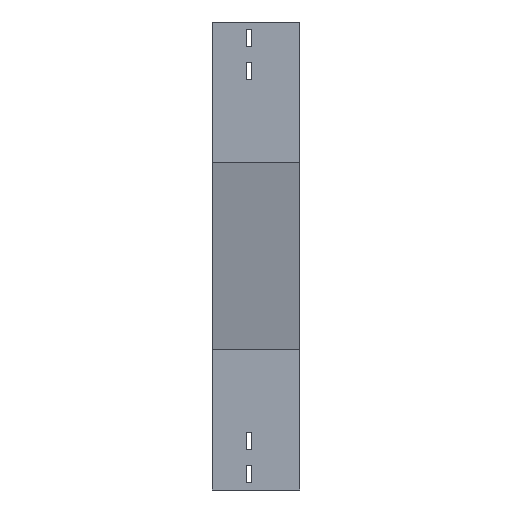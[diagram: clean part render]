
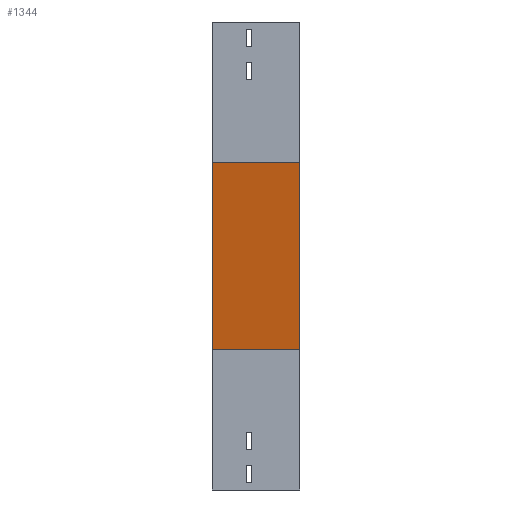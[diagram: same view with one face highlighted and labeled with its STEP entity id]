
A CAD part, left-side view. The second image highlights one B-rep face of the part: STEP entity #1344.
In plain terms, the highlighted planar face has unit normal (-0.979, 0, -0.204).
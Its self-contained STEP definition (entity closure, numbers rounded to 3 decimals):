
#192 = DIRECTION ( 'NONE',  ( 0., -1., 0. ) ) ;
#205 = EDGE_CURVE ( 'NONE', #251, #2139, #3980, .T. ) ;
#251 = VERTEX_POINT ( 'NONE', #2276 ) ;
#477 = VECTOR ( 'NONE', #2747, 1000. ) ;
#515 = LINE ( 'NONE', #2939, #1894 ) ;
#522 = VECTOR ( 'NONE', #3639, 1000. ) ;
#577 = ORIENTED_EDGE ( 'NONE', *, *, #3966, .F. ) ;
#633 = CARTESIAN_POINT ( 'NONE',  ( 0., 112.5, -180. ) ) ;
#669 = VERTEX_POINT ( 'NONE', #1381 ) ;
#677 = ORIENTED_EDGE ( 'NONE', *, *, #205, .F. ) ;
#703 = EDGE_LOOP ( 'NONE', ( #677, #577, #3336, #3859 ) ) ;
#918 = CARTESIAN_POINT ( 'NONE',  ( 0., 112.5, -180. ) ) ;
#951 = PLANE ( 'NONE',  #2188 ) ;
#1142 = EDGE_CURVE ( 'NONE', #2139, #669, #2745, .T. ) ;
#1344 = ADVANCED_FACE ( 'NONE', ( #3785 ), #951, .F. ) ;
#1347 = VECTOR ( 'NONE', #3464, 1000. ) ;
#1381 = CARTESIAN_POINT ( 'NONE',  ( 50., 112.5, -420. ) ) ;
#1406 = CARTESIAN_POINT ( 'NONE',  ( 50., 0., -420. ) ) ;
#1718 = VERTEX_POINT ( 'NONE', #633 ) ;
#1894 = VECTOR ( 'NONE', #192, 1000. ) ;
#1899 = DIRECTION ( 'NONE',  ( 0.204, 0., -0.979 ) ) ;
#2058 = CARTESIAN_POINT ( 'NONE',  ( 50., 0., -420. ) ) ;
#2139 = VERTEX_POINT ( 'NONE', #1406 ) ;
#2176 = CARTESIAN_POINT ( 'NONE',  ( 0., 0., -180. ) ) ;
#2188 = AXIS2_PLACEMENT_3D ( 'NONE', #2176, #3421, #1899 ) ;
#2276 = CARTESIAN_POINT ( 'NONE',  ( 0., 0., -180. ) ) ;
#2526 = LINE ( 'NONE', #918, #477 ) ;
#2745 = LINE ( 'NONE', #2058, #522 ) ;
#2747 = DIRECTION ( 'NONE',  ( 0.204, 0., -0.979 ) ) ;
#2939 = CARTESIAN_POINT ( 'NONE',  ( 0., 0., -180. ) ) ;
#3336 = ORIENTED_EDGE ( 'NONE', *, *, #3437, .T. ) ;
#3421 = DIRECTION ( 'NONE',  ( 0.979, 0., 0.204 ) ) ;
#3437 = EDGE_CURVE ( 'NONE', #1718, #669, #2526, .T. ) ;
#3464 = DIRECTION ( 'NONE',  ( 0.204, 0., -0.979 ) ) ;
#3639 = DIRECTION ( 'NONE',  ( 0., 1., 0. ) ) ;
#3764 = CARTESIAN_POINT ( 'NONE',  ( 0., 0., -180. ) ) ;
#3785 = FACE_OUTER_BOUND ( 'NONE', #703, .T. ) ;
#3859 = ORIENTED_EDGE ( 'NONE', *, *, #1142, .F. ) ;
#3966 = EDGE_CURVE ( 'NONE', #1718, #251, #515, .T. ) ;
#3980 = LINE ( 'NONE', #3764, #1347 ) ;
